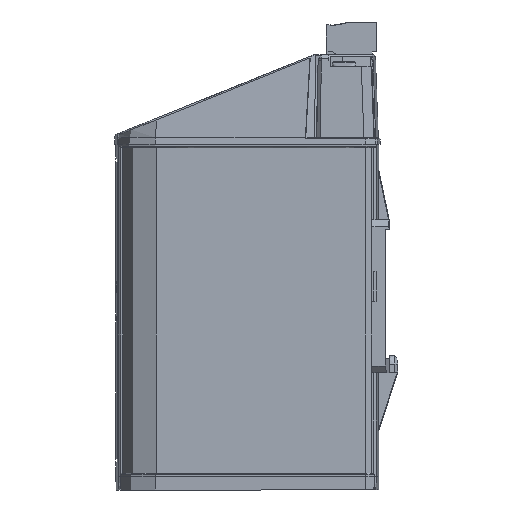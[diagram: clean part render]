
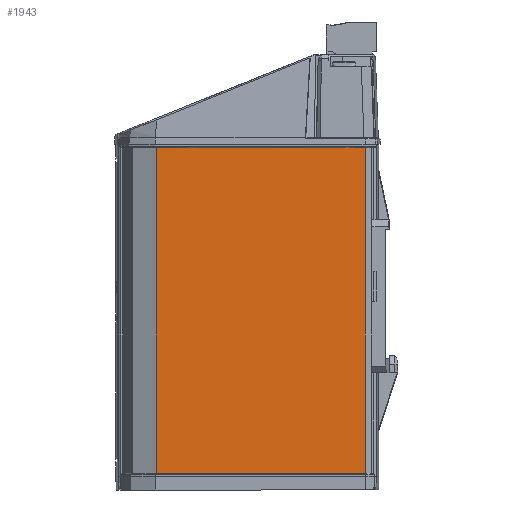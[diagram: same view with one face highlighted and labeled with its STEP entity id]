
A CAD part, left-side view. The second image highlights one B-rep face of the part: STEP entity #1943.
In plain terms, the highlighted planar face has unit normal (-1, 0, 0) as drawn and (0, 1, 0) by its records, which use the part's own axes.
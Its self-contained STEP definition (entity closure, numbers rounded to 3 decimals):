
#1943=ADVANCED_FACE('',(#3477),#24342,.T.);
#3477=FACE_OUTER_BOUND('',#5123,.T.);
#5123=EDGE_LOOP('',(#12777,#12778,#12779,#12780));
#12777=ORIENTED_EDGE('',*,*,#16970,.T.);
#12778=ORIENTED_EDGE('',*,*,#16976,.F.);
#12779=ORIENTED_EDGE('',*,*,#16968,.F.);
#12780=ORIENTED_EDGE('',*,*,#16974,.F.);
#16968=EDGE_CURVE('',#23583,#23584,#19690,.T.);
#16970=EDGE_CURVE('',#23587,#23586,#19692,.T.);
#16974=EDGE_CURVE('',#23587,#23583,#19695,.T.);
#16976=EDGE_CURVE('',#23584,#23586,#19696,.T.);
#19690=B_SPLINE_CURVE_WITH_KNOTS('',1,(#55050,#55051),.UNSPECIFIED.,.F.,
 .F.,(2,2),(0.,63.),.UNSPECIFIED.);
#19692=B_SPLINE_CURVE_WITH_KNOTS('',1,(#55054,#55055),.UNSPECIFIED.,.F.,
 .F.,(2,2),(-63.,0.),.UNSPECIFIED.);
#19695=B_SPLINE_CURVE_WITH_KNOTS('',1,(#55063,#55064),.UNSPECIFIED.,.F.,
 .F.,(2,2),(0.,100.),.UNSPECIFIED.);
#19696=B_SPLINE_CURVE_WITH_KNOTS('',1,(#55068,#55069),.UNSPECIFIED.,.F.,
 .F.,(2,2),(-100.,0.),.UNSPECIFIED.);
#23583=VERTEX_POINT('',#55032);
#23584=VERTEX_POINT('',#55033);
#23586=VERTEX_POINT('',#55035);
#23587=VERTEX_POINT('',#55036);
#24342=PLANE('',#26531);
#26531=AXIS2_PLACEMENT_3D('',#55023,#27663,$);
#27663=DIRECTION('',(0.,1.,0.));
#55023=CARTESIAN_POINT('',(-4.3,24.6,-10.));
#55032=CARTESIAN_POINT('',(65.,24.6,100.));
#55033=CARTESIAN_POINT('',(2.,24.6,100.));
#55035=CARTESIAN_POINT('',(2.,24.6,0.));
#55036=CARTESIAN_POINT('',(65.,24.6,0.));
#55050=CARTESIAN_POINT('',(65.,24.6,100.));
#55051=CARTESIAN_POINT('',(2.,24.6,100.));
#55054=CARTESIAN_POINT('',(65.,24.6,0.));
#55055=CARTESIAN_POINT('',(2.,24.6,0.));
#55063=CARTESIAN_POINT('',(65.,24.6,0.));
#55064=CARTESIAN_POINT('',(65.,24.6,100.));
#55068=CARTESIAN_POINT('',(2.,24.6,100.));
#55069=CARTESIAN_POINT('',(2.,24.6,0.));
